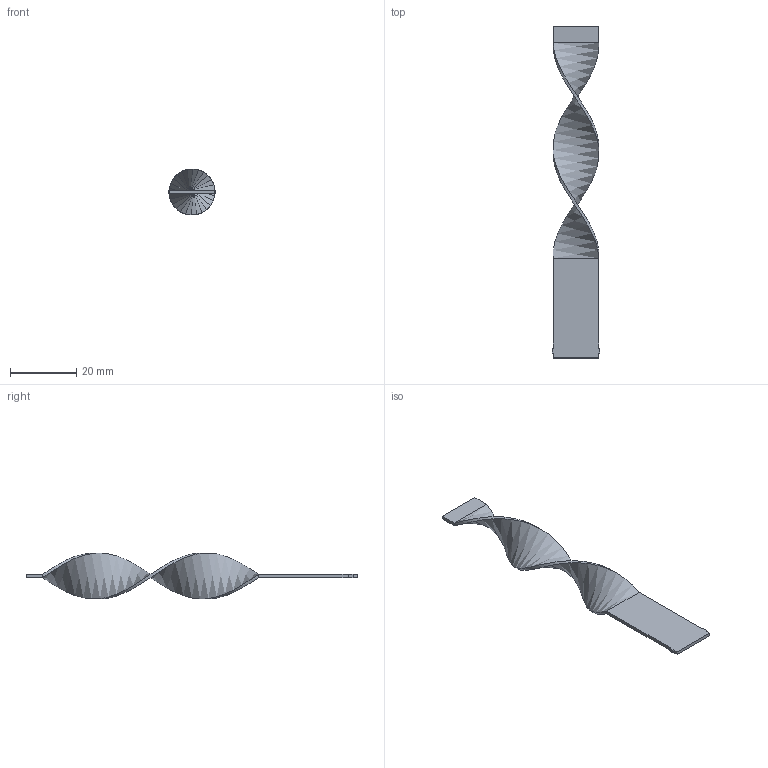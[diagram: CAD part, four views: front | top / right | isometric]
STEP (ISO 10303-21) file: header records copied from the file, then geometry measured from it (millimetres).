
FILE_DESCRIPTION (( 'STEP AP203' ), '1' );
FILE_NAME ('RLAS-14SMx100.STEP', '2015-12-10T14:06:44', ( 'Balzi' ), ( '' ), 'SwSTEP 2.0', 'SolidWorks 2015', '' );
FILE_SCHEMA (( 'CONFIG_CONTROL_DESIGN' ));
Length unit declared in the file: millimetre
Products named in the file (1): RLAS-14SMx100
Bounding box: 14.4 x 100 x 13.83 mm (x, y, z)
Volume: 1380.8 mm3; surface area: 3115.8 mm2
Topology: 1 solids, 1 shells, 22 faces, 52 edges, 32 vertices
Faces by surface type: plane 18, bspline 4
Entity records: 1385 total; most frequent: CARTESIAN_POINT 831, ORIENTED_EDGE 104, DIRECTION 86, EDGE_CURVE 52, VECTOR 48, LINE 48, VERTEX_POINT 32, ADVANCED_FACE 22
